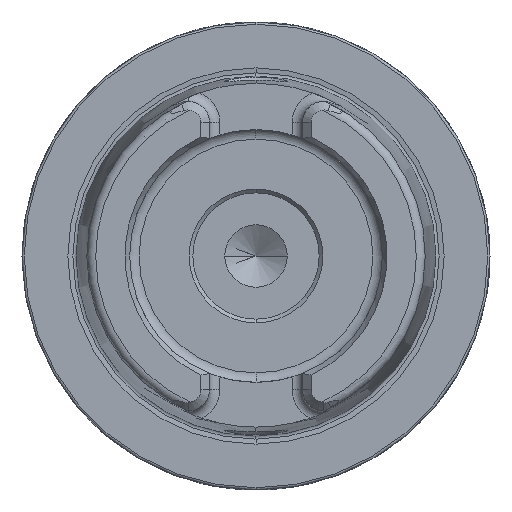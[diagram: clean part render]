
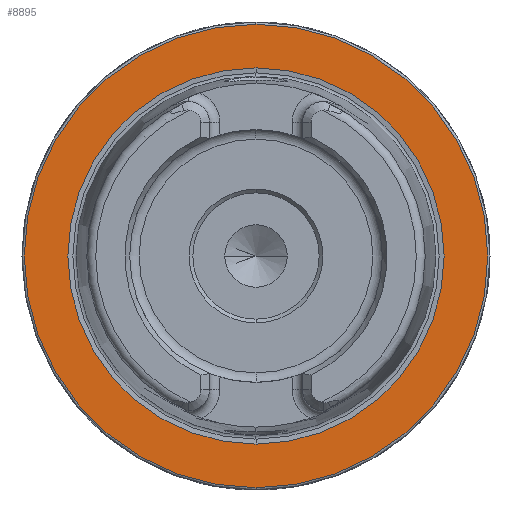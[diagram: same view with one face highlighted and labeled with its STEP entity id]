
A CAD part, left-side view. The second image highlights one B-rep face of the part: STEP entity #8895.
In plain terms, the highlighted planar face has unit normal (-1, 0, 0).
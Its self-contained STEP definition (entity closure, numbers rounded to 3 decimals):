
#606 = CARTESIAN_POINT ( 'NONE',  ( 0., 31.2, 0. ) ) ;
#1052 = CARTESIAN_POINT ( 'NONE',  ( 0., 0., 31.2 ) ) ;
#1182 = CARTESIAN_POINT ( 'NONE',  ( 0., 0., 0. ) ) ;
#1519 = AXIS2_PLACEMENT_3D ( 'NONE', #11740, #4420, #6421 ) ;
#1528 = EDGE_LOOP ( 'NONE', ( #9994, #7914 ) ) ;
#1673 = CARTESIAN_POINT ( 'NONE',  ( 0., 0., -31.2 ) ) ;
#2869 = EDGE_CURVE ( 'NONE', #7647, #11567, #4901, .T. ) ;
#3257 = DIRECTION ( 'NONE',  ( -1., 0., 0. ) ) ;
#3339 = CARTESIAN_POINT ( 'NONE',  ( 0., 0., 0. ) ) ;
#3785 = PLANE ( 'NONE',  #4992 ) ;
#3949 = FACE_BOUND ( 'NONE', #1528, .T. ) ;
#3966 = VERTEX_POINT ( 'NONE', #6437 ) ;
#4420 = DIRECTION ( 'NONE',  ( -1., 0., 0. ) ) ;
#4695 = CIRCLE ( 'NONE', #5397, 25.324 ) ;
#4875 = EDGE_CURVE ( 'NONE', #7156, #3966, #10849, .T. ) ;
#4901 = CIRCLE ( 'NONE', #1519, 31.2 ) ;
#4992 = AXIS2_PLACEMENT_3D ( 'NONE', #606, #9131, #10037 ) ;
#5059 = EDGE_CURVE ( 'NONE', #11567, #7647, #12973, .T. ) ;
#5397 = AXIS2_PLACEMENT_3D ( 'NONE', #8626, #7677, #7580 ) ;
#5559 = FACE_OUTER_BOUND ( 'NONE', #12526, .T. ) ;
#6421 = DIRECTION ( 'NONE',  ( 0., 0., 1. ) ) ;
#6437 = CARTESIAN_POINT ( 'NONE',  ( 0., 0., -25.324 ) ) ;
#7156 = VERTEX_POINT ( 'NONE', #8060 ) ;
#7365 = DIRECTION ( 'NONE',  ( 0., 0., 1. ) ) ;
#7468 = DIRECTION ( 'NONE',  ( 0., 0., 1. ) ) ;
#7580 = DIRECTION ( 'NONE',  ( 0., 0., 1. ) ) ;
#7647 = VERTEX_POINT ( 'NONE', #1673 ) ;
#7677 = DIRECTION ( 'NONE',  ( -1., 0., 0. ) ) ;
#7914 = ORIENTED_EDGE ( 'NONE', *, *, #12699, .F. ) ;
#8060 = CARTESIAN_POINT ( 'NONE',  ( 0., 0., 25.324 ) ) ;
#8626 = CARTESIAN_POINT ( 'NONE',  ( 0., 0., 0. ) ) ;
#8895 = ADVANCED_FACE ( 'NONE', ( #3949, #5559 ), #3785, .F. ) ;
#9131 = DIRECTION ( 'NONE',  ( 1., 0., 0. ) ) ;
#9480 = AXIS2_PLACEMENT_3D ( 'NONE', #1182, #3257, #7365 ) ;
#9740 = AXIS2_PLACEMENT_3D ( 'NONE', #3339, #10800, #7468 ) ;
#9994 = ORIENTED_EDGE ( 'NONE', *, *, #4875, .F. ) ;
#10037 = DIRECTION ( 'NONE',  ( 0., 0., -1. ) ) ;
#10759 = ORIENTED_EDGE ( 'NONE', *, *, #2869, .T. ) ;
#10800 = DIRECTION ( 'NONE',  ( -1., 0., 0. ) ) ;
#10827 = ORIENTED_EDGE ( 'NONE', *, *, #5059, .T. ) ;
#10849 = CIRCLE ( 'NONE', #9480, 25.324 ) ;
#11567 = VERTEX_POINT ( 'NONE', #1052 ) ;
#11740 = CARTESIAN_POINT ( 'NONE',  ( 0., 0., 0. ) ) ;
#12526 = EDGE_LOOP ( 'NONE', ( #10827, #10759 ) ) ;
#12699 = EDGE_CURVE ( 'NONE', #3966, #7156, #4695, .T. ) ;
#12973 = CIRCLE ( 'NONE', #9740, 31.2 ) ;
